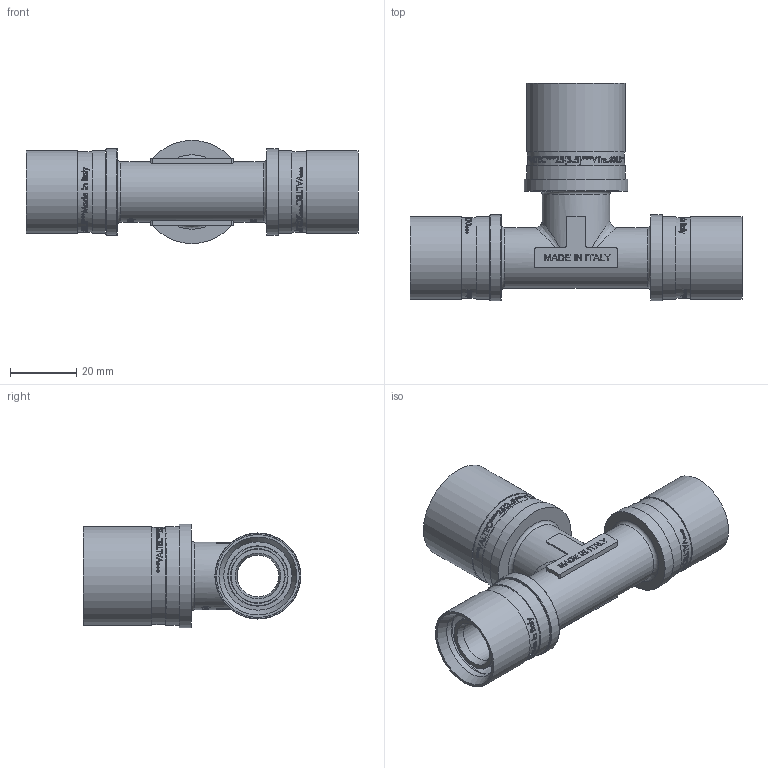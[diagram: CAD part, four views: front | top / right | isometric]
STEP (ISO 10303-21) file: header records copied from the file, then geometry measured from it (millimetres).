
FILE_DESCRIPTION(/* description */ (''),/* implementation_level */ '2;1');
FILE_NAME(/* name */ 'F:\Артём\00000\Работа удаленка\Аксеальные фитинги\VTm.431.BG.202520.stp',/* time_stamp */ '2021-01-26T12:46:15+03:00',/* author */ ('almis'),/* organization */ (''),/* preprocessor_version */ 'ST-DEVELOPER v18',/* originating_system */ 'Autodesk Inventor 2020',/* authorisation */ '');
FILE_SCHEMA (('AUTOMOTIVE_DESIGN { 1 0 10303 214 3 1 1 }'));
Length unit declared in the file: millimetre
Products named in the file (1): VTm.403.BG.001616
Bounding box: 100.27 x 65.8 x 31.2 mm (x, y, z)
Volume: 30801 mm3; surface area: 29100.4 mm2
Topology: 1 solids, 1 shells, 2450 faces, 6667 edges, 4479 vertices
Faces by surface type: bspline 1293, plane 841, cylinder 269, torus 25, cone 22
Full cylindrical faces by diameter (mm): 12.6 x1, 15.4 x1, 15.7 x10, 16.5 x8, 18.2 x2, 18.3 x1, 18.8 x5, 19.8 x4, 20.5 x1, 20.65 x4, 21.8 x1, 24.3 x2, 25 x4, 25.5 x2, 26 x2, 29.3 x1, 29.85 x2, 31.2 x1
Entity records: 101986 total; most frequent: CARTESIAN_POINT 47858, ORIENTED_EDGE 13334, DIRECTION 7393, EDGE_CURVE 6667, VERTEX_POINT 4479, LINE 3037, VECTOR 3037, EDGE_LOOP 2714
